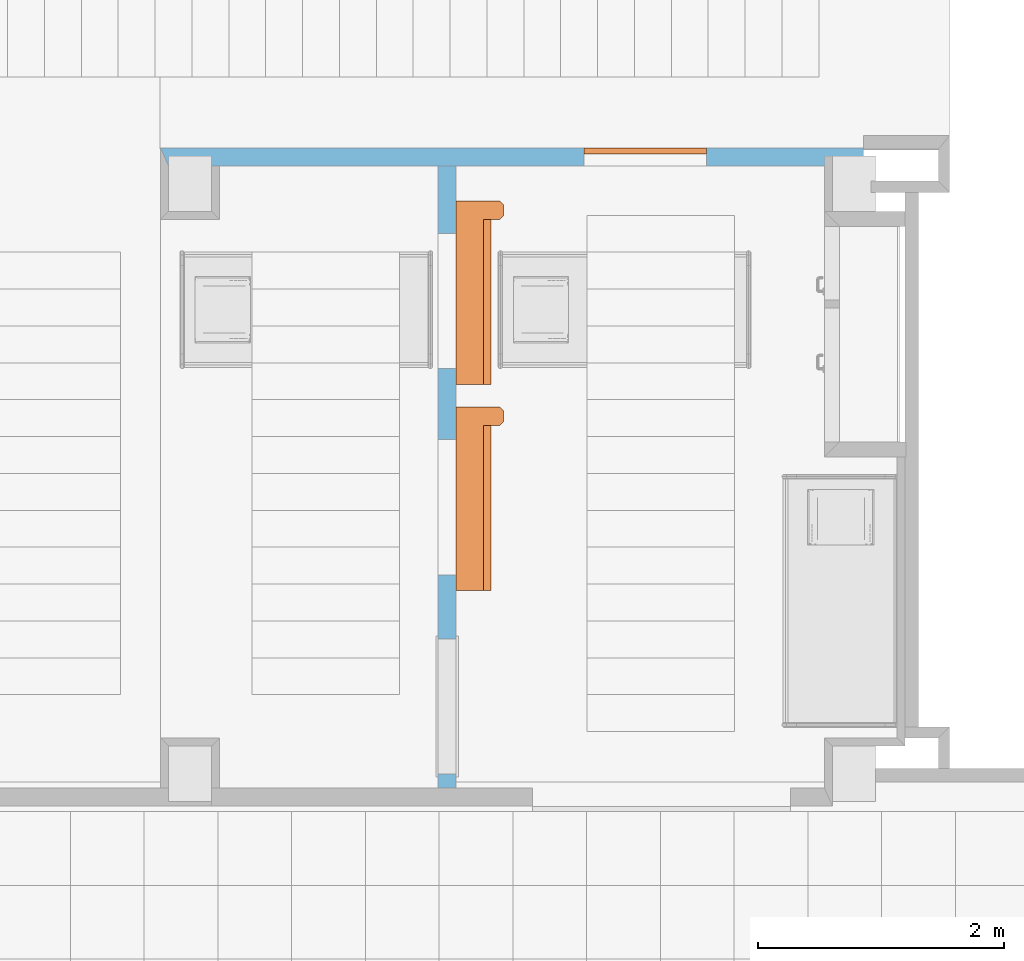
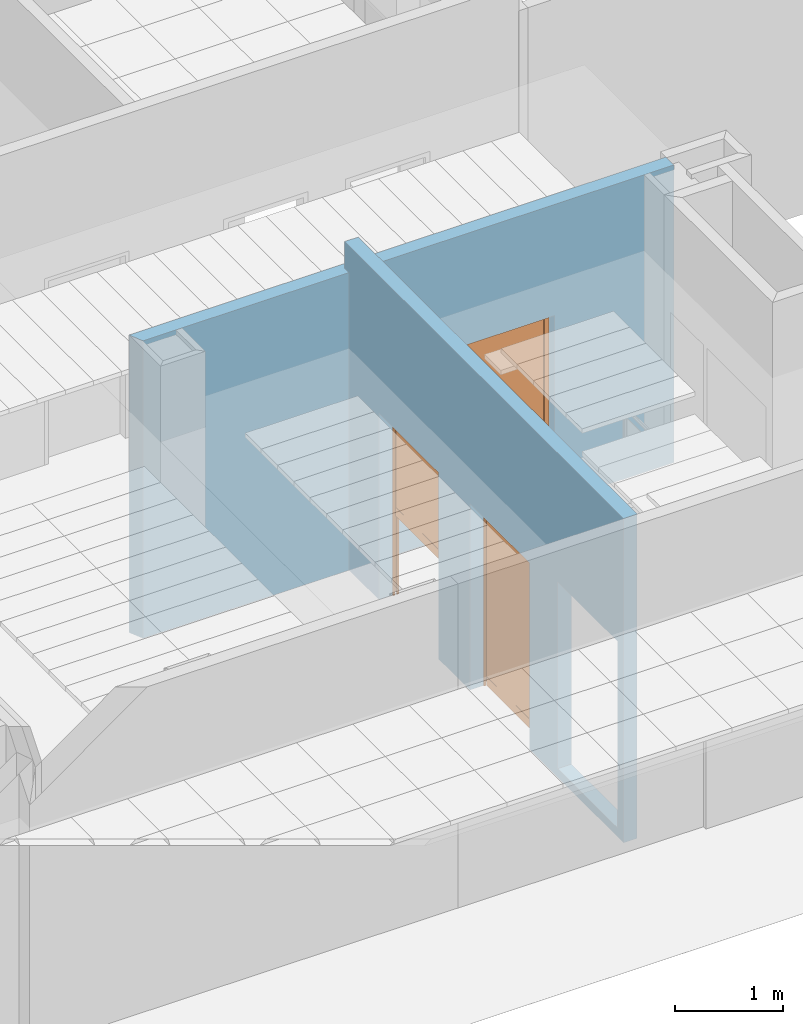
# One storey, part 53 of 60: 3 proxies, 4 openings, plus 2 elements that do not belong to this part.
"""IFC2X3 building model written with IfcOpenShell, lengths in millimetres."""

from ifc_helpers import new_model, entity, si_unit, converted_unit, derived_unit, money_unit, direction, frame, origin_with_axes, origin_2d_with_axis, place, context, subcontext, project, spatial, polyline, rectangle, outline, extrude, open_shell, faceted_brep, surface_model, material, layer, layer_set, layer_usage, type_object, element, fill, save


model = new_model("IFC2X3")

# Units and contexts
model_context = context("Model", 3, precision=0.01, world=origin_with_axes(), true_north=direction((0.0, 1.0)))
body_context = subcontext(model_context, "Body", "Model", "MODEL_VIEW")
ifc_project = project(units=[si_unit("LENGTHUNIT", "METRE", prefix="MILLI"), si_unit("AREAUNIT", "SQUARE_METRE"), si_unit("VOLUMEUNIT", "CUBIC_METRE"), converted_unit("PLANEANGLEUNIT", "DEGREE", entity("IfcPlaneAngleMeasure", 0.0174532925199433), si_unit("PLANEANGLEUNIT", "RADIAN"), dimensions=[0, 0, 0, 0, 0, 0, 0]), money_unit("USD"), converted_unit("TIMEUNIT", "Year", entity("IfcTimeMeasure", 31557600.0), si_unit("TIMEUNIT", "SECOND"), dimensions=[0, 0, 1, 0, 0, 0, 0]), si_unit("MASSUNIT", "GRAM", prefix="KILO"), si_unit("THERMODYNAMICTEMPERATUREUNIT", "DEGREE_CELSIUS"), si_unit("LUMINOUSINTENSITYUNIT", "LUMEN"), si_unit("ENERGYUNIT", "JOULE", prefix="MEGA"), derived_unit("THERMALCONDUCTANCEUNIT", [(si_unit("POWERUNIT", "WATT"), 1), (si_unit("LENGTHUNIT", "METRE"), -1), (si_unit("THERMODYNAMICTEMPERATUREUNIT", "KELVIN"), -1)]), derived_unit("SPECIFICHEATCAPACITYUNIT", [(si_unit("ENERGYUNIT", "JOULE"), 1), (si_unit("MASSUNIT", "GRAM", prefix="KILO"), -1), (si_unit("THERMODYNAMICTEMPERATUREUNIT", "KELVIN"), -1)]), derived_unit("MASSDENSITYUNIT", [(si_unit("MASSUNIT", "GRAM", prefix="KILO"), 1), (si_unit("VOLUMEUNIT", "CUBIC_METRE"), -1)])], contexts=[model_context])

# Site, building, storey
site_placement = place(None, origin_with_axes())
site = spatial("IfcSite", under=ifc_project, at=site_placement, Name="Sitio", CompositionType="ELEMENT")
building_placement = place(site_placement, origin_with_axes())
building = spatial("IfcBuilding", under=site, at=building_placement, Name="Construcción", CompositionType="ELEMENT")
storey_placement = place(building_placement, frame((0.0, 0.0, 3650.0), z_axis=(0.0, 0.0, 1.0), x_axis=(1.0, 0.0, 0.0)))
storey = spatial("IfcBuildingStorey", under=building, at=storey_placement, Name="PLANTA 2ª", CompositionType="ELEMENT", Elevation=3650.0)

# Wall, openings, proxies
ifc_material_1 = material(Name="ARQ_FU093_Panellat_HPL")
ifc_layer_1 = layer(ifc_material_1, 6.0, ventilated="UNKNOWN")
ifc_material_2 = material(Name="ARQ_EN271_Camara_Aire")
ifc_layer_2 = layer(ifc_material_2, 6.0, ventilated="UNKNOWN")
ifc_material_3 = material(Name="Panel de Yeso Laminado")
ifc_layer_3 = layer(ifc_material_3, 13.0, ventilated="UNKNOWN")
ifc_layer_4 = layer(ifc_material_3, 13.0, ventilated="UNKNOWN")
ifc_material_4 = material(Name="ARQ_AI033_Aillament_Llana_De_Roca")
ifc_layer_5 = layer(ifc_material_4, 70.0, ventilated="UNKNOWN")
ifc_layer_6 = layer(ifc_material_3, 13.0, ventilated="UNKNOWN")
ifc_layer_7 = layer(ifc_material_3, 13.0, ventilated="UNKNOWN")
ifc_layer_8 = layer(ifc_material_2, 6.0, ventilated="UNKNOWN")
ifc_layer_9 = layer(ifc_material_1, 6.0, ventilated="UNKNOWN")
ifc_layer_set = layer_set([ifc_layer_1, ifc_layer_2, ifc_layer_3, ifc_layer_4, ifc_layer_5, ifc_layer_6, ifc_layer_7, ifc_layer_8, ifc_layer_9], Name="CR Pladur 70 HPL 2 cares")
ifc_layer_usage_1 = layer_usage(ifc_layer_set, "AXIS2", "POSITIVE", -146.0)
wall_type = type_object("IfcWallType", Name="CR Pladur 70 HPL 2 cares 146", PredefinedType="NOTDEFINED")
wall_1_placement = place(storey_placement, frame((2622.912972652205, -17276.97565901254, 0.0), z_axis=(0.0, 0.0, 1.0), x_axis=(0.0, 1.0, 0.0)))
wall_1 = element("IfcWallStandardCase", 1, at=wall_1_placement, inside=storey, type_object=wall_type, material=ifc_layer_usage_1, Name="MS-212", context=body_context, shape_type="SweptSolid", body=[
    extrude(outline(polyline([(146.0000000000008, -145.9999999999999), (5288.0, -145.9999999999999), (5288.0, 0.0), (146.0000000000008, 0.0), (146.0000000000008, -145.9999999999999)])), origin_with_axes(), (0.0, 0.0, 1.0), 3650.0),
])
opening_1_placement = place(wall_1_placement, frame((4107.83456292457, 0.0, 0.0), z_axis=(0.0, 0.0, 1.0), x_axis=(1.0, 0.0, 0.0)))
opening_1 = element("IfcOpeningElement", 2, at=opening_1_placement, cuts=wall_1, Name="P- Transfer", context=body_context, shape_type="SweptSolid", body=[
    extrude(rectangle(XDim=1100.000000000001, YDim=2100.0, at=origin_2d_with_axis()), frame((0.0, -145.9999999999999, 1050.0), z_axis=(0.0, -1.0, 0.0), x_axis=(1.0, 0.0, 0.0)), (0.0, 0.0, -1.0), 438.0000000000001),
])
opening_2_placement = place(wall_1_placement, frame((809.4995115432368, 0.0, 100.0000000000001), z_axis=(0.0, 0.0, 1.0), x_axis=(1.0, 0.0, 0.0)))
element("IfcOpeningElement", 3, at=opening_2_placement, cuts=wall_1, Name="P-03", context=body_context, shape_type="SweptSolid", body=[
    extrude(rectangle(XDim=1100.000000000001, YDim=2100.0, at=origin_2d_with_axis()), frame((0.0, -145.9999999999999, 1050.0), z_axis=(0.0, -1.0, 0.0), x_axis=(-1.0, 0.0, 0.0)), (0.0, 0.0, -1.0), 438.0000000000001),
    extrude(rectangle(XDim=1143.999999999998, YDim=2122.0, at=origin_2d_with_axis()), frame((0.0, -145.9999999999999, 1061.0), z_axis=(0.0, -1.0, 0.0), x_axis=(-1.0, 0.0, 0.0)), (0.0, 0.0, 1.0), 146.0),
    extrude(rectangle(XDim=1143.999999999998, YDim=2122.0, at=origin_2d_with_axis()), frame((0.0, 0.0, 1061.0), z_axis=(0.0, 1.0, 0.0), x_axis=(-1.0, 0.0, 0.0)), (0.0, 0.0, 1.0), 146.0),
])
opening_3_placement = place(wall_1_placement, frame((2430.715045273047, 0.0, 0.0), z_axis=(0.0, 0.0, 1.0), x_axis=(1.0, 0.0, 0.0)))
opening_3 = element("IfcOpeningElement", 4, at=opening_3_placement, cuts=wall_1, Name="P- Transfer", context=body_context, shape_type="SweptSolid", body=[
    extrude(rectangle(XDim=1100.000000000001, YDim=2100.0, at=origin_2d_with_axis()), frame((0.0, -145.9999999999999, 1050.0), z_axis=(0.0, -1.0, 0.0), x_axis=(1.0, 0.0, 0.0)), (0.0, 0.0, -1.0), 438.0000000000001),
])
building_element_proxy_type_1 = type_object("IfcBuildingElementProxyType", Name="Puerta Rápida Enrrollable 27", PredefinedType="NOTDEFINED")
proxy_1_placement = place(opening_1_placement, frame((550.0000000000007, 0.0, 0.0), z_axis=(0.0, 0.0, 1.0), x_axis=(-1.0, 0.0, 0.0)))
proxy_1 = element("IfcBuildingElementProxy", 5, at=proxy_1_placement, inside=storey, type_object=building_element_proxy_type_1, Name="P- Transfer", context=body_context, shape_type="Brep", body=[
    faceted_brep([(10.00000000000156, 165.9999999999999, 0.0), (5.000000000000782, 165.9999999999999, 0.0), (5.000000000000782, 165.9999999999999, 2090.0), (10.00000000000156, 165.9999999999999, 2090.0), (10.00000000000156, 146.0000000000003, 0.0), (-114.9999999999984, 146.0000000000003, 0.0), (-114.9999999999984, 206.0, 0.0), (10.00000000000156, 206.0, 0.0), (10.00000000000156, 185.9999999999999, 0.0), (5.000000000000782, 185.9999999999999, 0.0), (5.000000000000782, 201.0000000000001, 0.0), (-109.9999999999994, 201.0000000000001, 0.0), (-109.9999999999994, 151.0000000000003, 0.0), (5.000000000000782, 151.0000000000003, 0.0), (5.000000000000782, 151.0000000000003, 2090.0), (-109.9999999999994, 151.0000000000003, 2090.0), (-109.9999999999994, 201.0000000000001, 2090.0), (5.000000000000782, 201.0000000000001, 2090.0), (5.000000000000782, 185.9999999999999, 2090.0), (10.00000000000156, 185.9999999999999, 2090.0), (10.00000000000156, 206.0, 2090.0), (-114.9999999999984, 206.0, 2090.0), (-114.9999999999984, 146.0000000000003, 2090.0), (10.00000000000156, 146.0000000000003, 2090.0)], [[[0, 1, 2, 3]], [[0, 4, 5, 6, 7, 8, 9, 10, 11, 12, 13, 1]], [[1, 13, 14, 2]], [[3, 2, 14, 15, 16, 17, 18, 19, 20, 21, 22, 23]], [[4, 0, 3, 23]], [[5, 4, 23, 22]], [[6, 5, 22, 21]], [[7, 6, 21, 20]], [[8, 7, 20, 19]], [[9, 8, 19, 18]], [[10, 9, 18, 17]], [[11, 10, 17, 16]], [[12, 11, 16, 15]], [[13, 12, 15, 14]]]),
    faceted_brep([(1090.0, 166.0000000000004, 0.0), (1090.0, 166.0000000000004, 2090.0), (1095.000000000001, 166.0000000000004, 2090.0), (1095.000000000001, 166.0000000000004, 0.0), (1090.0, 146.0000000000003, 0.0), (1090.0, 146.0000000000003, 2090.0), (1215.0, 146.0000000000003, 2090.0), (1215.0, 206.0000000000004, 2090.0), (1090.0, 206.0000000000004, 2090.0), (1090.0, 186.0000000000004, 2090.0), (1095.000000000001, 186.0000000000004, 2090.0), (1095.000000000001, 201.0000000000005, 2090.0), (1210.000000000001, 201.0000000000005, 2090.0), (1210.000000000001, 151.0000000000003, 2090.0), (1095.000000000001, 151.0000000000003, 2090.0), (1095.000000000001, 151.0000000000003, 0.0), (1210.000000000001, 151.0000000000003, 0.0), (1210.000000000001, 201.0000000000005, 0.0), (1095.000000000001, 201.0000000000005, 0.0), (1095.000000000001, 186.0000000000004, 0.0), (1090.0, 186.0000000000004, 0.0), (1090.0, 206.0000000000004, 0.0), (1215.0, 206.0000000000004, 0.0), (1215.0, 146.0000000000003, 0.0)], [[[0, 1, 2, 3]], [[4, 5, 1, 0]], [[1, 5, 6, 7, 8, 9, 10, 11, 12, 13, 14, 2]], [[3, 2, 14, 15]], [[0, 3, 15, 16, 17, 18, 19, 20, 21, 22, 23, 4]], [[23, 6, 5, 4]], [[22, 7, 6, 23]], [[21, 8, 7, 22]], [[20, 9, 8, 21]], [[19, 10, 9, 20]], [[18, 11, 10, 19]], [[17, 12, 11, 18]], [[16, 13, 12, 17]], [[15, 14, 13, 16]]]),
    faceted_brep([(1227.0, 146.0000000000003, 2410.0), (1227.0, 367.0000000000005, 2410.0), (-114.9999999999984, 367.0000000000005, 2410.0), (-114.9999999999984, 146.0000000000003, 2410.0), (1227.0, 146.0000000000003, 2090.0), (1227.0, 367.0000000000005, 2090.0), (1227.0, 431.0000000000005, 2154.0), (1227.0, 431.0000000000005, 2346.0), (-114.9999999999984, 431.0000000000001, 2346.0), (-114.9999999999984, 431.0000000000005, 2154.0), (-114.9999999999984, 367.0000000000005, 2090.0), (-114.9999999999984, 146.0000000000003, 2090.0)], [[[0, 1, 2, 3]], [[0, 4, 5, 6, 7, 1]], [[1, 7, 8, 2]], [[3, 2, 8, 9, 10, 11]], [[4, 0, 3, 11]], [[5, 4, 11, 10]], [[6, 5, 10, 9]], [[7, 6, 9, 8]]]),
    faceted_brep([(-114.9999999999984, 146.0000000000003, 1650.0), (-114.9999999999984, 500.9999999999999, 1650.0), (-114.9999999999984, 501.0000000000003, 2410.0), (-114.9999999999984, 146.0000000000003, 2410.0), (-264.9999999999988, 146.0000000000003, 1650.0), (-264.9999999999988, 500.9999999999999, 1650.0), (-234.9999999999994, 531.0000000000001, 1650.0), (-144.9999999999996, 531.0000000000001, 1650.0), (-144.9999999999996, 531.0000000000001, 2410.0), (-234.9999999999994, 531.0000000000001, 2410.0), (-264.9999999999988, 501.0000000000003, 2410.0), (-264.9999999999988, 146.0000000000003, 2410.0)], [[[0, 1, 2, 3]], [[0, 4, 5, 6, 7, 1]], [[1, 7, 8, 2]], [[3, 2, 8, 9, 10, 11]], [[4, 0, 3, 11]], [[5, 4, 11, 10]], [[6, 5, 10, 9]], [[7, 6, 9, 8]]]),
    faceted_brep([(1090.0, 176.0000000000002, 890.4857986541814), (1090.0, 171.0000000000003, 890.4857986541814), (10.00000000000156, 171.0000000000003, 890.4857986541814), (10.00000000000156, 176.0000000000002, 890.4857986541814), (1090.0, 176.0000000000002, 990.485798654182), (1090.0, 171.0000000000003, 990.485798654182), (10.00000000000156, 171.0000000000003, 990.485798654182), (10.00000000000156, 176.0000000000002, 990.485798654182)], [[[0, 1, 2, 3]], [[0, 4, 5, 1]], [[1, 5, 6, 2]], [[3, 2, 6, 7]], [[4, 0, 3, 7]], [[5, 4, 7, 6]]]),
    faceted_brep([(1090.0, 176.0000000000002, 990.485798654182), (1090.0, 175.0000000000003, 990.485798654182), (10.00000000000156, 175.0000000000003, 990.485798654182), (10.00000000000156, 176.0000000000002, 990.485798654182), (1090.0, 176.0000000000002, 2090.0), (1090.0, 175.0000000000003, 2090.0), (10.00000000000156, 175.0000000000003, 2090.0), (10.00000000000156, 176.0000000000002, 2090.0)], [[[0, 1, 2, 3]], [[0, 4, 5, 1]], [[1, 5, 6, 2]], [[3, 2, 6, 7]], [[4, 0, 3, 7]], [[5, 4, 7, 6]]]),
    faceted_brep([(1090.0, 175.0000000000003, 990.485798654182), (1090.0, 174.0000000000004, 990.485798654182), (10.00000000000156, 173.9999999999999, 990.485798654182), (10.00000000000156, 175.0000000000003, 990.485798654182), (1090.0, 175.0000000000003, 2090.0), (1090.0, 174.0000000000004, 2090.0), (10.00000000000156, 173.9999999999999, 2090.0), (10.00000000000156, 175.0000000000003, 2090.0)], [[[0, 1, 2, 3]], [[0, 4, 5, 1]], [[1, 5, 6, 2]], [[3, 2, 6, 7]], [[4, 0, 3, 7]], [[5, 4, 7, 6]]]),
])
fill(opening_1, proxy_1)
proxy_2_placement = place(opening_3_placement, frame((550.0000000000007, 0.0, 0.0), z_axis=(0.0, 0.0, 1.0), x_axis=(-1.0, 0.0, 0.0)))
proxy_2 = element("IfcBuildingElementProxy", 6, at=proxy_2_placement, inside=storey, type_object=building_element_proxy_type_1, Name="P- Transfer", context=body_context, shape_type="Brep", body=[
    faceted_brep([(10.00000000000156, 165.9999999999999, 0.0), (5.000000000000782, 165.9999999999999, 0.0), (5.000000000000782, 165.9999999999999, 2090.0), (10.00000000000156, 165.9999999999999, 2090.0), (10.00000000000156, 145.9999999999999, 0.0), (-114.9999999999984, 145.9999999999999, 0.0), (-114.9999999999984, 206.0, 0.0), (10.00000000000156, 206.0, 0.0), (10.00000000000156, 185.9999999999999, 0.0), (5.000000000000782, 185.9999999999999, 0.0), (5.000000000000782, 201.0000000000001, 0.0), (-109.9999999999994, 201.0000000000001, 0.0), (-109.9999999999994, 151.0000000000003, 0.0), (5.000000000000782, 151.0000000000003, 0.0), (5.000000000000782, 151.0000000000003, 2090.0), (-109.9999999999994, 151.0000000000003, 2090.0), (-109.9999999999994, 201.0000000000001, 2090.0), (5.000000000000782, 201.0000000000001, 2090.0), (5.000000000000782, 185.9999999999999, 2090.0), (10.00000000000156, 185.9999999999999, 2090.0), (10.00000000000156, 206.0, 2090.0), (-114.9999999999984, 206.0, 2090.0), (-114.9999999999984, 145.9999999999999, 2090.0), (10.00000000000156, 145.9999999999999, 2090.0)], [[[0, 1, 2, 3]], [[0, 4, 5, 6, 7, 8, 9, 10, 11, 12, 13, 1]], [[1, 13, 14, 2]], [[3, 2, 14, 15, 16, 17, 18, 19, 20, 21, 22, 23]], [[4, 0, 3, 23]], [[5, 4, 23, 22]], [[6, 5, 22, 21]], [[7, 6, 21, 20]], [[8, 7, 20, 19]], [[9, 8, 19, 18]], [[10, 9, 18, 17]], [[11, 10, 17, 16]], [[12, 11, 16, 15]], [[13, 12, 15, 14]]]),
    faceted_brep([(1090.0, 165.9999999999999, 0.0), (1090.0, 165.9999999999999, 2090.0), (1095.000000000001, 165.9999999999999, 2090.0), (1095.000000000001, 165.9999999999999, 0.0), (1090.0, 145.9999999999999, 0.0), (1090.0, 145.9999999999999, 2090.0), (1215.0, 145.9999999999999, 2090.0), (1215.0, 206.0, 2090.0), (1090.0, 206.0, 2090.0), (1090.0, 185.9999999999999, 2090.0), (1095.000000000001, 185.9999999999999, 2090.0), (1095.000000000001, 201.0000000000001, 2090.0), (1210.000000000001, 201.0000000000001, 2090.0), (1210.000000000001, 150.9999999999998, 2090.0), (1095.000000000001, 150.9999999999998, 2090.0), (1095.000000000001, 150.9999999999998, 0.0), (1210.000000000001, 150.9999999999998, 0.0), (1210.000000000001, 201.0000000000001, 0.0), (1095.000000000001, 201.0000000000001, 0.0), (1095.000000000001, 185.9999999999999, 0.0), (1090.0, 185.9999999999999, 0.0), (1090.0, 206.0, 0.0), (1215.0, 206.0, 0.0), (1215.0, 145.9999999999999, 0.0)], [[[0, 1, 2, 3]], [[4, 5, 1, 0]], [[1, 5, 6, 7, 8, 9, 10, 11, 12, 13, 14, 2]], [[3, 2, 14, 15]], [[0, 3, 15, 16, 17, 18, 19, 20, 21, 22, 23, 4]], [[23, 6, 5, 4]], [[22, 7, 6, 23]], [[21, 8, 7, 22]], [[20, 9, 8, 21]], [[19, 10, 9, 20]], [[18, 11, 10, 19]], [[17, 12, 11, 18]], [[16, 13, 12, 17]], [[15, 14, 13, 16]]]),
    faceted_brep([(1227.0, 145.9999999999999, 2410.0), (1227.0, 367.0, 2410.0), (-114.9999999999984, 367.0, 2410.0), (-114.9999999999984, 146.0000000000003, 2410.0), (1227.0, 145.9999999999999, 2090.0), (1227.0, 367.0, 2090.0), (1227.0, 431.0000000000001, 2154.0), (1227.0, 431.0000000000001, 2346.0), (-114.9999999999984, 431.0000000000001, 2346.0), (-114.9999999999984, 431.0000000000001, 2154.0), (-114.9999999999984, 367.0000000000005, 2090.0), (-114.9999999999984, 146.0000000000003, 2090.0)], [[[0, 1, 2, 3]], [[0, 4, 5, 6, 7, 1]], [[1, 7, 8, 2]], [[3, 2, 8, 9, 10, 11]], [[4, 0, 3, 11]], [[5, 4, 11, 10]], [[6, 5, 10, 9]], [[7, 6, 9, 8]]]),
    faceted_brep([(-114.9999999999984, 145.9999999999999, 1650.0), (-114.9999999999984, 501.0000000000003, 1650.0), (-114.9999999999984, 501.0000000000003, 2410.0), (-114.9999999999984, 145.9999999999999, 2410.0), (-264.9999999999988, 146.0000000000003, 1650.0), (-264.9999999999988, 501.0000000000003, 1650.0), (-234.9999999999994, 531.0000000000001, 1650.0), (-144.9999999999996, 531.0000000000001, 1650.0), (-144.9999999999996, 531.0000000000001, 2410.0), (-234.9999999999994, 531.0000000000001, 2410.0), (-264.9999999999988, 501.0000000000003, 2410.0), (-264.9999999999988, 146.0000000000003, 2410.0)], [[[0, 1, 2, 3]], [[0, 4, 5, 6, 7, 1]], [[1, 7, 8, 2]], [[3, 2, 8, 9, 10, 11]], [[4, 0, 3, 11]], [[5, 4, 11, 10]], [[6, 5, 10, 9]], [[7, 6, 9, 8]]]),
    faceted_brep([(1090.0, 175.9999999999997, 0.0), (1090.0, 170.9999999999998, 0.0), (10.00000000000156, 171.0000000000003, 0.0), (10.00000000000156, 176.0000000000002, 0.0), (1090.0, 175.9999999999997, 100.0000000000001), (1090.0, 170.9999999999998, 100.0000000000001), (10.00000000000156, 171.0000000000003, 100.0000000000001), (10.00000000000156, 176.0000000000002, 100.0000000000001)], [[[0, 1, 2, 3]], [[0, 4, 5, 1]], [[1, 5, 6, 2]], [[3, 2, 6, 7]], [[4, 0, 3, 7]], [[5, 4, 7, 6]]]),
    faceted_brep([(1090.0, 175.9999999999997, 100.0000000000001), (1090.0, 174.9999999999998, 100.0000000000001), (10.00000000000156, 175.0000000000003, 100.0000000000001), (10.00000000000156, 176.0000000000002, 100.0000000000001), (1090.0, 175.9999999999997, 2090.0), (1090.0, 174.9999999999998, 2090.0), (10.00000000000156, 174.9999999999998, 2090.0), (10.00000000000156, 176.0000000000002, 2090.0)], [[[0, 1, 2, 3]], [[0, 4, 5, 1]], [[1, 5, 6, 2]], [[3, 2, 6, 7]], [[4, 0, 3, 7]], [[5, 4, 7, 6]]]),
    faceted_brep([(1090.0, 174.9999999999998, 100.0000000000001), (1090.0, 173.9999999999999, 100.0000000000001), (10.00000000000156, 174.0000000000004, 100.0000000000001), (10.00000000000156, 175.0000000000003, 100.0000000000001), (1090.0, 174.9999999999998, 2090.0), (1090.0, 173.9999999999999, 2090.0), (10.00000000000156, 173.9999999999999, 2090.0), (10.00000000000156, 174.9999999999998, 2090.0)], [[[0, 1, 2, 3]], [[0, 4, 5, 1]], [[1, 5, 6, 2]], [[3, 2, 6, 7]], [[4, 0, 3, 7]], [[5, 4, 7, 6]]]),
])
fill(opening_3, proxy_2)

# Wall, opening, proxy
ifc_layer_usage_2 = layer_usage(ifc_layer_set, "AXIS2", "POSITIVE", -146.0)
wall_2_placement = place(storey_placement, frame((6082.105854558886, -12069.97582371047, 0.0), z_axis=(0.0, 0.0, 1.0), x_axis=(-1.0, 0.0, 0.0)))
wall_2 = element("IfcWallStandardCase", 7, at=wall_2_placement, inside=storey, type_object=wall_type, material=ifc_layer_usage_2, Name="MS-225", context=body_context, shape_type="SweptSolid", body=[
    extrude(outline(polyline([(0.0, -146.0000000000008), (5718.214859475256, -146.0000000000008), (5653.214859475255, 0.0), (0.0, 0.0), (0.0, -146.0000000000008)])), origin_with_axes(), (0.0, 0.0, 1.0), 3350.0),
])
opening_4_placement = place(wall_2_placement, frame((1774.709989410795, 0.0, 0.0), z_axis=(0.0, 0.0, 1.0), x_axis=(1.0, 0.0, 0.0)))
opening_4 = element("IfcOpeningElement", 8, at=opening_4_placement, cuts=wall_2, Name="F-02", context=body_context, shape_type="SweptSolid", body=[
    extrude(rectangle(XDim=999.9999999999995, YDim=2100.0, at=origin_2d_with_axis()), frame((0.0, 146.0000000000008, 1050.0), z_axis=(0.0, -1.0, 0.0), x_axis=(-1.0, 0.0, 0.0)), (0.0, 0.0, 1.0), 438.0000000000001),
])
building_element_proxy_type_2 = type_object("IfcBuildingElementProxyType", Name="Ventana 27", PredefinedType="NOTDEFINED")
proxy_3_placement = place(opening_4_placement, frame((500.0, 0.0, 0.0), z_axis=(0.0, 0.0, 1.0), x_axis=(-1.0, 0.0, 0.0)))
proxy_3 = element("IfcBuildingElementProxy", 9, at=proxy_3_placement, inside=storey, type_object=building_element_proxy_type_2, Name="F-02", context=body_context, shape_type="SurfaceModel", body=[
    faceted_brep([(49.99999999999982, 96.00000000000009, 2050.0), (49.99999999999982, 146.0000000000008, 2050.0), (0.0, 146.0000000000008, 2050.0), (0.0, 96.00000000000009, 2050.0), (49.99999999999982, 96.00000000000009, 49.99999999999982), (49.99999999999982, 146.0000000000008, 49.99999999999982), (0.0, 146.0000000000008, 49.99999999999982), (0.0, 96.00000000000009, 49.99999999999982)], [[[0, 1, 2, 3]], [[4, 5, 1, 0]], [[1, 5, 6, 2]], [[3, 2, 6, 7]], [[0, 3, 7, 4]], [[7, 6, 5, 4]]]),
    faceted_brep([(950.0000000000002, 96.00000000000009, 49.99999999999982), (950.0000000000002, 146.0000000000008, 49.99999999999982), (1000.0, 146.0000000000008, 49.99999999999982), (1000.0, 96.00000000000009, 49.99999999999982), (950.0000000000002, 96.00000000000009, 2050.0), (950.0000000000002, 146.0000000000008, 2050.0), (1000.0, 146.0000000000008, 2050.0), (1000.0, 96.00000000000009, 2050.0)], [[[0, 1, 2, 3]], [[4, 5, 1, 0]], [[1, 5, 6, 2]], [[3, 2, 6, 7]], [[0, 3, 7, 4]], [[7, 6, 5, 4]]]),
    faceted_brep([(49.99999999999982, 96.00000000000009, 49.99999999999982), (49.99999999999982, 146.0000000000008, 49.99999999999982), (0.0, 146.0000000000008, 49.99999999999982), (0.0, 96.00000000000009, 49.99999999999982), (950.0000000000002, 96.00000000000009, 49.99999999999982), (950.0000000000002, 146.0000000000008, 49.99999999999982), (1000.0, 146.0000000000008, 49.99999999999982), (1000.0, 146.0000000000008, 0.0), (0.0, 146.0000000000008, 0.0), (0.0, 96.00000000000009, 0.0), (1000.0, 96.00000000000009, 0.0), (1000.0, 96.00000000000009, 49.99999999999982)], [[[0, 1, 2, 3]], [[4, 5, 1, 0]], [[1, 5, 6, 7, 8, 2]], [[3, 2, 8, 9]], [[0, 3, 9, 10, 11, 4]], [[11, 6, 5, 4]], [[10, 7, 6, 11]], [[9, 8, 7, 10]]]),
    faceted_brep([(950.0000000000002, 96.00000000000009, 2050.0), (950.0000000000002, 146.0000000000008, 2050.0), (1000.0, 146.0000000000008, 2050.0), (1000.0, 96.00000000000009, 2050.0), (49.99999999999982, 96.00000000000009, 2050.0), (49.99999999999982, 146.0000000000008, 2050.0), (0.0, 146.0000000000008, 2050.0), (0.0, 146.0000000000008, 2100.0), (1000.0, 146.0000000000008, 2100.0), (1000.0, 96.00000000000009, 2100.0), (0.0, 96.00000000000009, 2100.0), (0.0, 96.00000000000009, 2050.0)], [[[0, 1, 2, 3]], [[4, 5, 1, 0]], [[1, 5, 6, 7, 8, 2]], [[3, 2, 8, 9]], [[0, 3, 9, 10, 11, 4]], [[11, 6, 5, 4]], [[10, 7, 6, 11]], [[9, 8, 7, 10]]]),
    surface_model("IfcShellBasedSurfaceModel", [(49.99999999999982, 111.0000000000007, 49.99999999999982), (950.0000000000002, 111.0000000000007, 49.99999999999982), (950.0000000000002, 111.0000000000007, 2050.0), (49.99999999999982, 111.0000000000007, 2050.0)], [open_shell([[[0, 1, 2, 3]]])]),
    surface_model("IfcShellBasedSurfaceModel", [(49.99999999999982, 131.0000000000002, 49.99999999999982), (49.99999999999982, 131.0000000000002, 2050.0), (950.0000000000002, 131.0000000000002, 2050.0), (950.0000000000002, 131.0000000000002, 49.99999999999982)], [open_shell([[[0, 1, 2, 3]]])]),
])
fill(opening_4, proxy_3)

save(model, "model.ifc")
